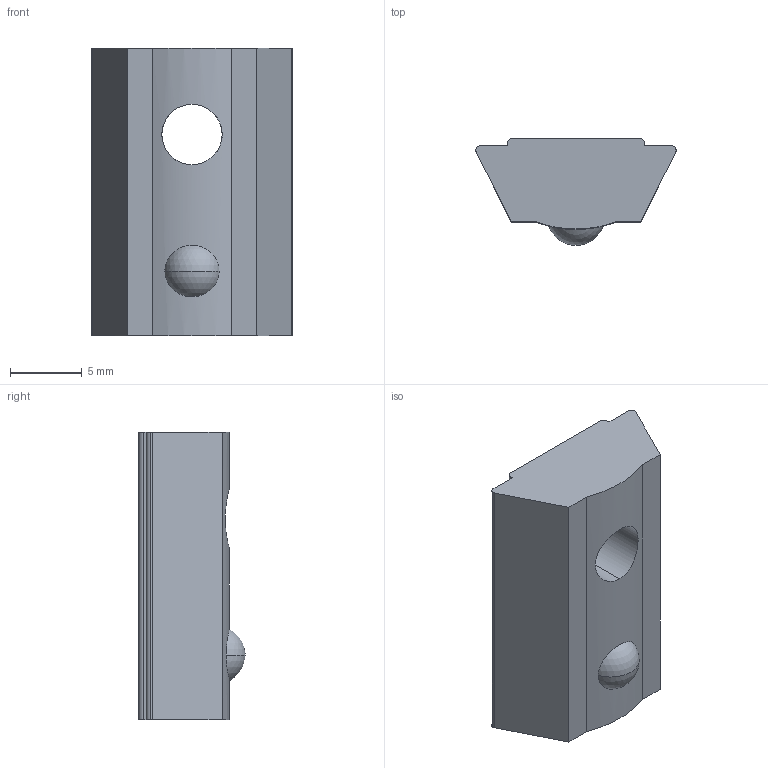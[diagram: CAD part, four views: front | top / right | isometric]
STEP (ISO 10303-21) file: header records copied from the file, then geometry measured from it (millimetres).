
FILE_DESCRIPTION (( 'STEP AP203' ), '1' );
FILE_NAME ('LIMA-LHNR5-104545.STEP', '2018-03-15T12:18:25', ( '' ), ( '' ), 'SwSTEP 2.0', 'SolidWorks 2013', '' );
FILE_SCHEMA (( 'CONFIG_CONTROL_DESIGN' ));
Length unit declared in the file: millimetre
Products named in the file (1): LIMA-LHNR5-104545
Bounding box: 13.93 x 7.4 x 20 mm (x, y, z)
Volume: 1284.3 mm3; surface area: 900.2 mm2
Topology: 1 solids, 1 shells, 21 faces, 55 edges, 37 vertices
Faces by surface type: plane 11, cylinder 8, sphere 2
Entity records: 838 total; most frequent: CARTESIAN_POINT 226, DIRECTION 111, ORIENTED_EDGE 110, EDGE_CURVE 55, AXIS2_PLACEMENT_3D 38, VERTEX_POINT 37, VECTOR 35, LINE 35
